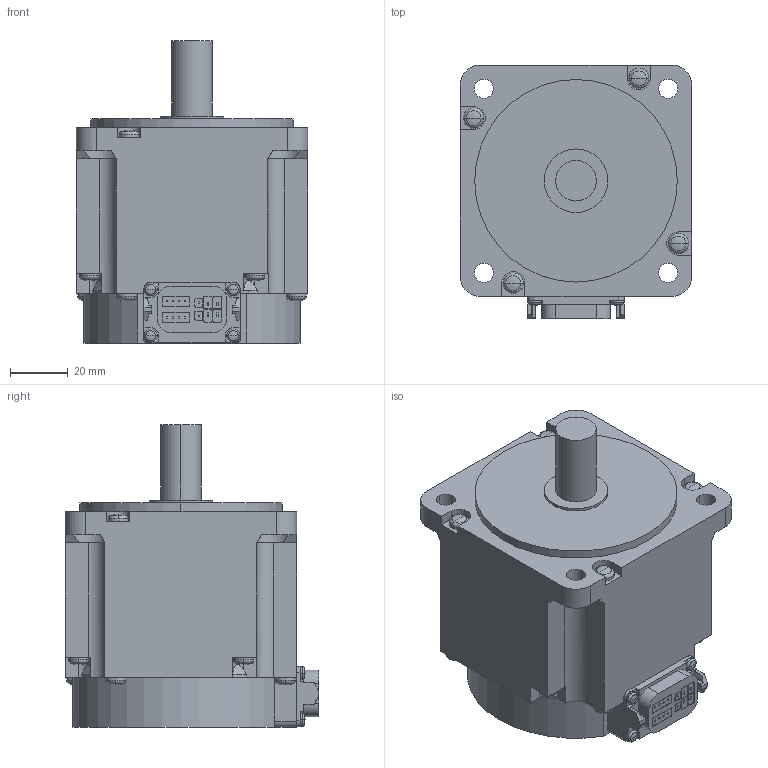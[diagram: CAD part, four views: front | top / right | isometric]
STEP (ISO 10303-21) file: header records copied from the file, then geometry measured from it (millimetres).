
FILE_DESCRIPTION((''),'2;1');
FILE_NAME('BC63812_-_HK-KT43UW_-_ASM','2019-01-15T',('XE90682'),(''),'CREO PARAMETRIC BY PTC INC, 2016380','CREO PARAMETRIC BY PTC INC, 2016380','');
FILE_SCHEMA(('CONFIG_CONTROL_DESIGN'));
Length unit declared in the file: millimetre
Products named in the file (1): BC63812_-_HK-KT43UW_-_ASM
Bounding box: 80 x 87.65 x 104.5 mm (x, y, z)
Volume: 425223.1 mm3; surface area: 38629.5 mm2
Topology: 1 solids, 1 shells, 401 faces, 1043 edges, 655 vertices
Faces by surface type: plane 220, cylinder 113, torus 32, sphere 32, cone 4
Entity records: 12237 total; most frequent: CARTESIAN_POINT 2266, DIRECTION 2124, ORIENTED_EDGE 2022, EDGE_CURVE 1011, AXIS2_PLACEMENT_3D 728, VECTOR 668, LINE 668, VERTEX_POINT 655
